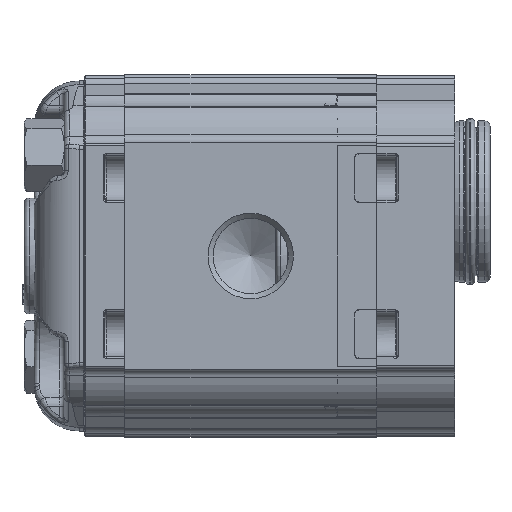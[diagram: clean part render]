
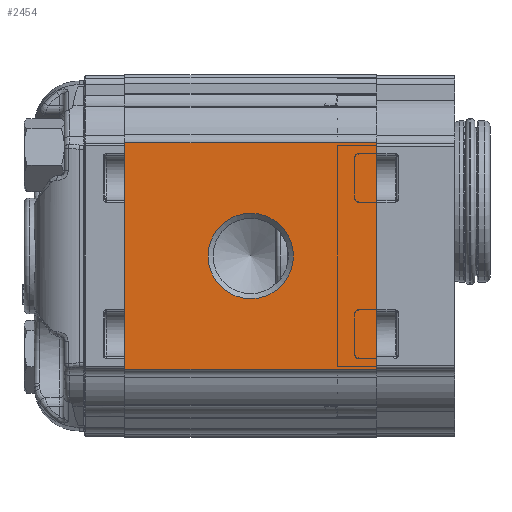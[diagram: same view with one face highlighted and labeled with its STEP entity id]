
A CAD part, left-side view. The second image highlights one B-rep face of the part: STEP entity #2454.
In plain terms, the highlighted planar face has unit normal (-1, 0, 0).
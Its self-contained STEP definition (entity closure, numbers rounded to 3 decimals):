
#2454 = ADVANCED_FACE( '', ( #6450, #6451 ), #6452, .T. );
#6450 = FACE_BOUND( '', #12934, .T. );
#6451 = FACE_OUTER_BOUND( '', #12935, .T. );
#6452 = PLANE( '', #12936 );
#12934 = EDGE_LOOP( '', ( #23201 ) );
#12935 = EDGE_LOOP( '', ( #23202, #23203, #23204, #23205 ) );
#12936 = AXIS2_PLACEMENT_3D( '', #23206, #23207, #23208 );
#23201 = ORIENTED_EDGE( '', *, *, #38476, .F. );
#23202 = ORIENTED_EDGE( '', *, *, #38477, .T. );
#23203 = ORIENTED_EDGE( '', *, *, #38478, .T. );
#23204 = ORIENTED_EDGE( '', *, *, #38479, .T. );
#23205 = ORIENTED_EDGE( '', *, *, #38290, .F. );
#23206 = CARTESIAN_POINT( '', ( -33., 127.919, 48.138 ) );
#23207 = DIRECTION( '', ( -1., 0., 0. ) );
#23208 = DIRECTION( '', ( 0., 0., 1. ) );
#38290 = EDGE_CURVE( '', #45712, #45714, #45715, .T. );
#38476 = EDGE_CURVE( '', #46013, #46013, #46014, .F. );
#38477 = EDGE_CURVE( '', #45712, #46015, #46016, .T. );
#38478 = EDGE_CURVE( '', #46015, #46017, #46018, .T. );
#38479 = EDGE_CURVE( '', #46017, #45714, #46019, .F. );
#45712 = VERTEX_POINT( '', #57453 );
#45714 = VERTEX_POINT( '', #57455 );
#45715 = LINE( '', #57456, #57457 );
#46013 = VERTEX_POINT( '', #57919 );
#46014 = CIRCLE( '', #57920, 8.475 );
#46015 = VERTEX_POINT( '', #57921 );
#46016 = LINE( '', #57922, #57923 );
#46017 = VERTEX_POINT( '', #57924 );
#46018 = LINE( '', #57925, #57926 );
#46019 = LINE( '', #57927, #57928 );
#57453 = CARTESIAN_POINT( '', ( -33., 50., -22.5 ) );
#57455 = CARTESIAN_POINT( '', ( -33., 50., 22.5 ) );
#57456 = CARTESIAN_POINT( '', ( -33., 50., -21.711 ) );
#57457 = VECTOR( '', #73020, 1000. );
#57919 = CARTESIAN_POINT( '', ( -33., 25., -8.475 ) );
#57920 = AXIS2_PLACEMENT_3D( '', #73262, #73263, #73264 );
#57921 = CARTESIAN_POINT( '', ( -33., 0., -22.5 ) );
#57922 = CARTESIAN_POINT( '', ( -33., 50., -22.5 ) );
#57923 = VECTOR( '', #73265, 1000. );
#57924 = CARTESIAN_POINT( '', ( -33., 0., 22.5 ) );
#57925 = CARTESIAN_POINT( '', ( -33., 0., -21.711 ) );
#57926 = VECTOR( '', #73266, 1000. );
#57927 = CARTESIAN_POINT( '', ( -33., 50., 22.5 ) );
#57928 = VECTOR( '', #73267, 1000. );
#73020 = DIRECTION( '', ( 0., 0., 1. ) );
#73262 = CARTESIAN_POINT( '', ( -33., 25., 0. ) );
#73263 = DIRECTION( '', ( 1., 0., 0. ) );
#73264 = DIRECTION( '', ( 0., 0., -1. ) );
#73265 = DIRECTION( '', ( 0., -1., 0. ) );
#73266 = DIRECTION( '', ( 0., 0., 1. ) );
#73267 = DIRECTION( '', ( 0., -1., 0. ) );
